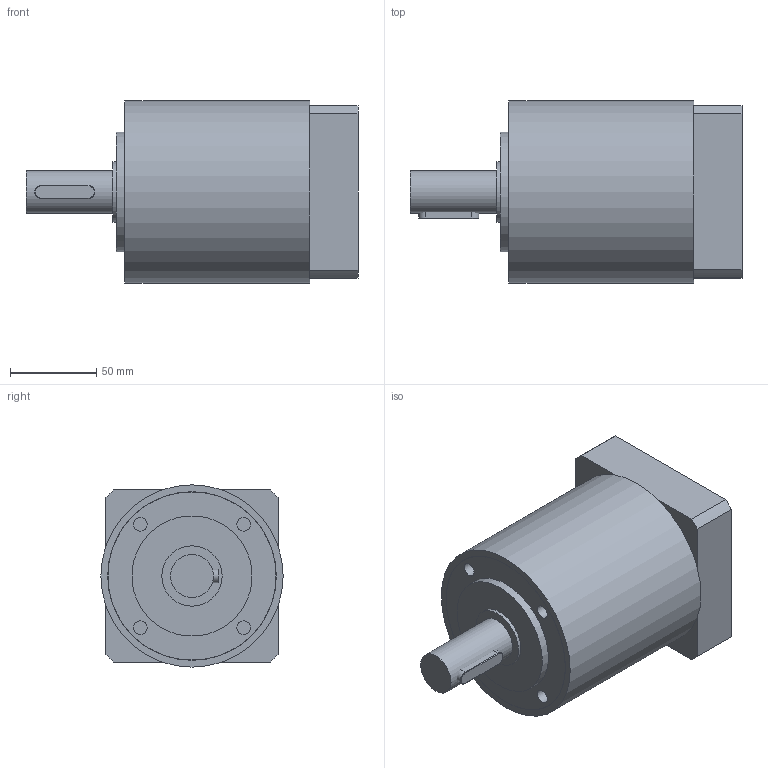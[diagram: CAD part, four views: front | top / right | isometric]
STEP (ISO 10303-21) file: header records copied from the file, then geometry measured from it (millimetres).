
FILE_DESCRIPTION(/* description */ (''),/* implementation_level */ '2;1');
FILE_NAME(/* name */ 'X_MP 105 1 50C1 CD 14 KE.stp',/* time_stamp */ '2019-07-05T12:23:33+02:00',/* author */ (''),/* organization */ (''),/* preprocessor_version */ 'ST-DEVELOPER v16',/* originating_system */ 'SIEMENS PLM Software NX 11.0',/* authorisation */ '');
FILE_SCHEMA (('AP203_CONFIGURATION_CONTROLLED_3D_DESIGN_OF_MECHANICAL_PARTS_AND_ASSEMBLIES_MIM_LF { 1 0 10303 403 2 1 2}'));
Length unit declared in the file: millimetre
Products named in the file (9): 614200772_B-FLANGIA PAM MP-TR105 50-70 H28; 615070001_B-MORSETTO A20 D.14 _ALLUMINIO_; 610009385_A-ALB VEL PER MORSET MP-TR105 D14; 611300793_A-BOCCOLA X CUSC MP-TR105 ENTRATA; 712410014_--LINGUETTA 8X7X35 A TS_00019 T-20; 610004607_A-ALBERO LENTO MP-TR105 I_3 CON LI; 611300820_A-BOCCOLA X CUSC MP-TR105 USCITA S; 612303622_B-CASSA MP-TR105 MONOSTADIO; 064088_01-MP 105 2 - 60A2 - 14 - KE
Assembly tree (8 placements, depth 2):
  064088_01-MP 105 2 - 60A2 - 14 - KE
    612303622_B-CASSA MP-TR105 MONOSTADIO
    611300820_A-BOCCOLA X CUSC MP-TR105 USCITA S
    610004607_A-ALBERO LENTO MP-TR105 I_3 CON LI
    712410014_--LINGUETTA 8X7X35 A TS_00019 T-20
    611300793_A-BOCCOLA X CUSC MP-TR105 ENTRATA
    610009385_A-ALB VEL PER MORSET MP-TR105 D14
    615070001_B-MORSETTO A20 D.14 _ALLUMINIO_
    614200772_B-FLANGIA PAM MP-TR105 50-70 H28
Bounding box: 193 x 106 x 106 mm (x, y, z)
Volume: 1273410.4 mm3; surface area: 150610.6 mm2
Topology: 8 solids, 8 shells, 105 faces, 229 edges, 153 vertices
Faces by surface type: plane 46, cylinder 43, cone 16
Full cylindrical faces by diameter (mm): 3.432 x4, 5.188 x1, 6 x4, 6.2 x1, 8 x4, 10.5 x1, 13.75 x1, 14 x1, 19 x1, 25 x2, 35 x3, 47 x1, 50.5 x1, 56 x1, 70 x1, 79 x1, 90 x1, 98 x2, 106 x1
Entity records: 3744 total; most frequent: CARTESIAN_POINT 570, DIRECTION 476, ORIENTED_EDGE 344, AXIS2_PLACEMENT_3D 208, EDGE_LOOP 173, EDGE_CURVE 172, VERTEX_POINT 137, FACE_BOUND 128
